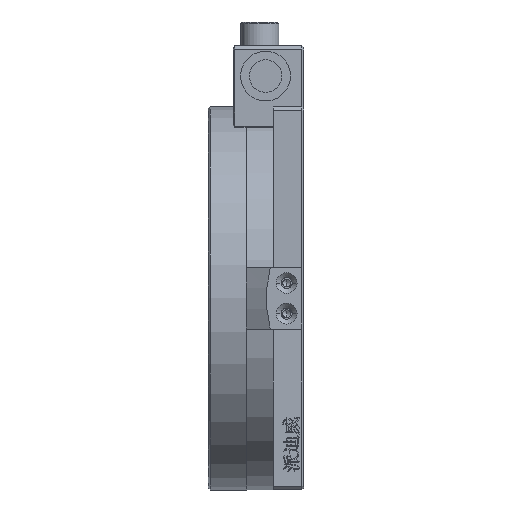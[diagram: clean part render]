
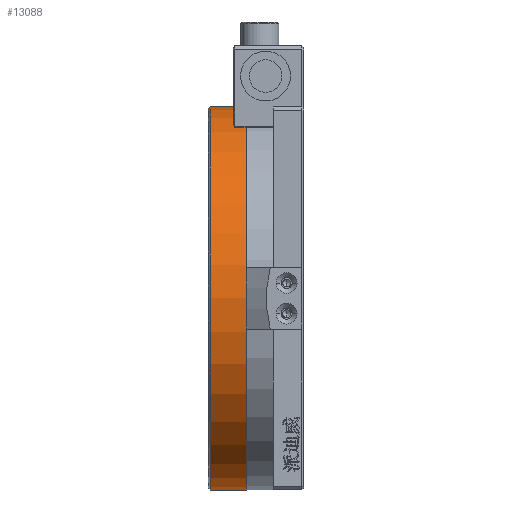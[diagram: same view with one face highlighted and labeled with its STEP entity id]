
A CAD part, left-side view. The second image highlights one B-rep face of the part: STEP entity #13088.
In plain terms, the highlighted cylindrical face has radius 50 mm (diameter 100 mm), a partial arc.
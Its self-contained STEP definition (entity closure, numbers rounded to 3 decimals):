
#633 = AXIS2_PLACEMENT_3D ( 'NONE', #17525, #15602, #11233 ) ;
#1354 = AXIS2_PLACEMENT_3D ( 'NONE', #11886, #10032, #22713 ) ;
#2780 = CYLINDRICAL_SURFACE ( 'NONE', #633, 50. ) ;
#3158 = ORIENTED_EDGE ( 'NONE', *, *, #9621, .F. ) ;
#3390 = CARTESIAN_POINT ( 'NONE',  ( 58.128, 69.446, 21.068 ) ) ;
#4093 = DIRECTION ( 'NONE',  ( 0., 1., 0. ) ) ;
#4183 = CARTESIAN_POINT ( 'NONE',  ( 58.128, 69.446, 121.068 ) ) ;
#4539 = CARTESIAN_POINT ( 'NONE',  ( 58.128, 69.446, 121.068 ) ) ;
#4803 = AXIS2_PLACEMENT_3D ( 'NONE', #5344, #15931, #7863 ) ;
#5344 = CARTESIAN_POINT ( 'NONE',  ( 58.128, 69.446, 71.068 ) ) ;
#7366 = CIRCLE ( 'NONE', #4803, 50. ) ;
#7682 = VERTEX_POINT ( 'NONE', #15014 ) ;
#7863 = DIRECTION ( 'NONE',  ( 0., 0., 1. ) ) ;
#8884 = LINE ( 'NONE', #15214, #14522 ) ;
#9621 = EDGE_CURVE ( 'NONE', #24828, #25652, #8884, .T. ) ;
#10032 = DIRECTION ( 'NONE',  ( 0., 1., 0. ) ) ;
#10132 = ORIENTED_EDGE ( 'NONE', *, *, #18288, .T. ) ;
#11233 = DIRECTION ( 'NONE',  ( 0., 0., 1. ) ) ;
#11886 = CARTESIAN_POINT ( 'NONE',  ( 58.128, 78.946, 71.068 ) ) ;
#12390 = EDGE_CURVE ( 'NONE', #25652, #7682, #13863, .T. ) ;
#13088 = ADVANCED_FACE ( 'NONE', ( #26530 ), #2780, .T. ) ;
#13863 = CIRCLE ( 'NONE', #1354, 50. ) ;
#14522 = VECTOR ( 'NONE', #15117, 1000. ) ;
#15014 = CARTESIAN_POINT ( 'NONE',  ( 58.128, 78.946, 121.068 ) ) ;
#15117 = DIRECTION ( 'NONE',  ( 0., 1., 0. ) ) ;
#15214 = CARTESIAN_POINT ( 'NONE',  ( 58.128, 69.446, 21.068 ) ) ;
#15602 = DIRECTION ( 'NONE',  ( 0., 1., 0. ) ) ;
#15931 = DIRECTION ( 'NONE',  ( 0., 1., 0. ) ) ;
#17525 = CARTESIAN_POINT ( 'NONE',  ( 58.128, 69.446, 71.068 ) ) ;
#18137 = VERTEX_POINT ( 'NONE', #4539 ) ;
#18288 = EDGE_CURVE ( 'NONE', #24828, #18137, #7366, .T. ) ;
#20893 = CARTESIAN_POINT ( 'NONE',  ( 58.128, 78.946, 21.068 ) ) ;
#21220 = EDGE_CURVE ( 'NONE', #18137, #7682, #22645, .T. ) ;
#22645 = LINE ( 'NONE', #4183, #25287 ) ;
#22713 = DIRECTION ( 'NONE',  ( 0., 0., -1. ) ) ;
#24828 = VERTEX_POINT ( 'NONE', #3390 ) ;
#25287 = VECTOR ( 'NONE', #4093, 1000. ) ;
#25323 = ORIENTED_EDGE ( 'NONE', *, *, #21220, .T. ) ;
#25652 = VERTEX_POINT ( 'NONE', #20893 ) ;
#26530 = FACE_OUTER_BOUND ( 'NONE', #26773, .T. ) ;
#26677 = ORIENTED_EDGE ( 'NONE', *, *, #12390, .F. ) ;
#26773 = EDGE_LOOP ( 'NONE', ( #3158, #10132, #25323, #26677 ) ) ;
